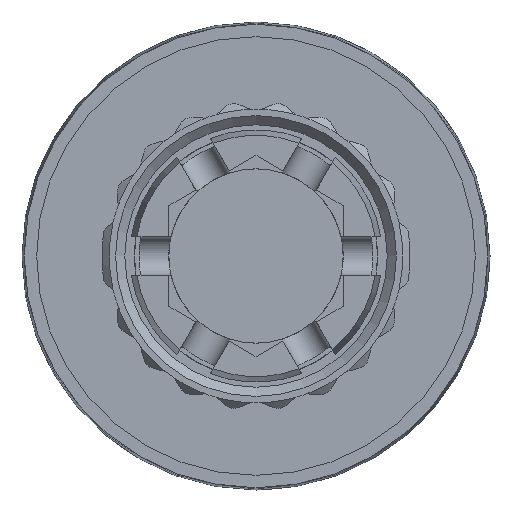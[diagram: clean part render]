
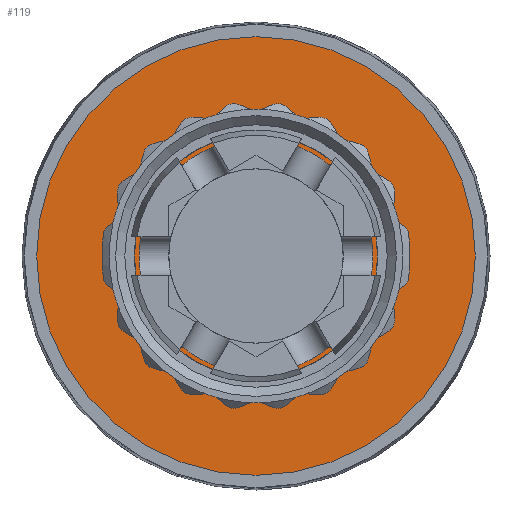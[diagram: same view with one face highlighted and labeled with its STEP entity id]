
A CAD part, front view. The second image highlights one B-rep face of the part: STEP entity #119.
In plain terms, the highlighted planar face has unit normal (0, -1, 0).
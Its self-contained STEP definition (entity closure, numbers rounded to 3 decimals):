
#119=ADVANCED_FACE('',(#821,#823),#825,.T.);
#821=FACE_BOUND('',#822,.T.);
#822=EDGE_LOOP('',(#2860));
#823=FACE_BOUND('',#824,.T.);
#824=EDGE_LOOP('',(#2861));
#825=PLANE('',#826);
#826=AXIS2_PLACEMENT_3D('',#827,#828,#829);
#827=CARTESIAN_POINT('',(0.,1.9,0.));
#828=DIRECTION('',(0.,-1.,0.));
#829=DIRECTION('',(0.,0.,-1.));
#2860=ORIENTED_EDGE('',*,*,#4250,.T.);
#2861=ORIENTED_EDGE('',*,*,#4213,.F.);
#4213=EDGE_CURVE('',#5130,#5130,#5131,.T.);
#4250=EDGE_CURVE('',#5179,#5179,#5180,.T.);
#5130=VERTEX_POINT('',#7266);
#5131=CIRCLE('',#7267,12.75);
#5179=VERTEX_POINT('',#7637);
#5180=CIRCLE('',#7638,23.9);
#7266=CARTESIAN_POINT('',(-6.375,1.9,-11.042));
#7267=AXIS2_PLACEMENT_3D('',#7268,#7269,#7270);
#7268=CARTESIAN_POINT('',(0.,1.9,0.));
#7269=DIRECTION('',(0.,-1.,0.));
#7270=DIRECTION('',(0.,0.,-1.));
#7637=CARTESIAN_POINT('',(0.,1.9,-23.9));
#7638=AXIS2_PLACEMENT_3D('',#7639,#7640,#7641);
#7639=CARTESIAN_POINT('',(0.,1.9,0.));
#7640=DIRECTION('',(0.,-1.,0.));
#7641=DIRECTION('',(0.,0.,-1.));
